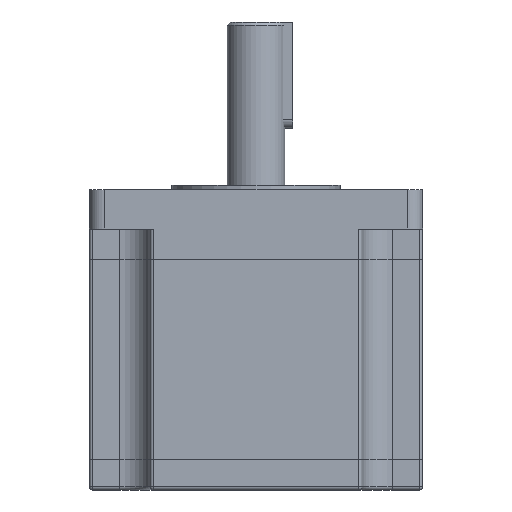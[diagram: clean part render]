
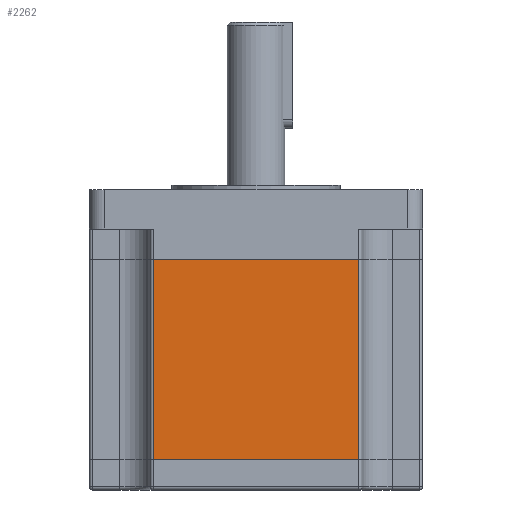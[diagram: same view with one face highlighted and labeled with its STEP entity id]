
A CAD part, front view. The second image highlights one B-rep face of the part: STEP entity #2262.
In plain terms, the highlighted planar face has unit normal (0, -1, 0).
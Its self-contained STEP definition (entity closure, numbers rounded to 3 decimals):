
#62 = CARTESIAN_POINT ( 'NONE',  ( -33.93, -54.93, 76.08 ) ) ;
#72 = CARTESIAN_POINT ( 'NONE',  ( 54.93, -54.93, 10.01 ) ) ;
#234 = DIRECTION ( 'NONE',  ( 0., 0., -1. ) ) ;
#412 = ORIENTED_EDGE ( 'NONE', *, *, #981, .F. ) ;
#460 = VERTEX_POINT ( 'NONE', #3686 ) ;
#517 = LINE ( 'NONE', #1809, #2922 ) ;
#981 = EDGE_CURVE ( 'NONE', #460, #3077, #2990, .T. ) ;
#1122 = CARTESIAN_POINT ( 'NONE',  ( -54.93, -54.93, 99. ) ) ;
#1168 = VERTEX_POINT ( 'NONE', #1990 ) ;
#1385 = DIRECTION ( 'NONE',  ( -1., 0., 0. ) ) ;
#1396 = EDGE_CURVE ( 'NONE', #2195, #3077, #1847, .T. ) ;
#1511 = VECTOR ( 'NONE', #4185, 1000. ) ;
#1566 = LINE ( 'NONE', #2869, #1511 ) ;
#1809 = CARTESIAN_POINT ( 'NONE',  ( 33.93, -54.93, 99. ) ) ;
#1830 = VECTOR ( 'NONE', #1385, 1000. ) ;
#1847 = LINE ( 'NONE', #3159, #2445 ) ;
#1990 = CARTESIAN_POINT ( 'NONE',  ( 33.93, -54.93, 76.08 ) ) ;
#2195 = VERTEX_POINT ( 'NONE', #62 ) ;
#2262 = ADVANCED_FACE ( 'NONE', ( #2728 ), #4045, .F. ) ;
#2324 = EDGE_CURVE ( 'NONE', #460, #1168, #517, .T. ) ;
#2402 = DIRECTION ( 'NONE',  ( 0., 1., 0. ) ) ;
#2445 = VECTOR ( 'NONE', #234, 1000. ) ;
#2523 = EDGE_LOOP ( 'NONE', ( #4093, #3121, #4123, #412 ) ) ;
#2579 = AXIS2_PLACEMENT_3D ( 'NONE', #1122, #2402, #3720 ) ;
#2728 = FACE_OUTER_BOUND ( 'NONE', #2523, .T. ) ;
#2768 = CARTESIAN_POINT ( 'NONE',  ( -33.93, -54.93, 10.01 ) ) ;
#2869 = CARTESIAN_POINT ( 'NONE',  ( -54.93, -54.93, 76.08 ) ) ;
#2922 = VECTOR ( 'NONE', #3113, 1000. ) ;
#2990 = LINE ( 'NONE', #72, #1830 ) ;
#3077 = VERTEX_POINT ( 'NONE', #2768 ) ;
#3113 = DIRECTION ( 'NONE',  ( 0., 0., 1. ) ) ;
#3121 = ORIENTED_EDGE ( 'NONE', *, *, #3761, .F. ) ;
#3159 = CARTESIAN_POINT ( 'NONE',  ( -33.93, -54.93, 99. ) ) ;
#3686 = CARTESIAN_POINT ( 'NONE',  ( 33.93, -54.93, 10.01 ) ) ;
#3720 = DIRECTION ( 'NONE',  ( 0., 0., 1. ) ) ;
#3761 = EDGE_CURVE ( 'NONE', #2195, #1168, #1566, .T. ) ;
#4045 = PLANE ( 'NONE',  #2579 ) ;
#4093 = ORIENTED_EDGE ( 'NONE', *, *, #2324, .T. ) ;
#4123 = ORIENTED_EDGE ( 'NONE', *, *, #1396, .T. ) ;
#4185 = DIRECTION ( 'NONE',  ( 1., 0., 0. ) ) ;
